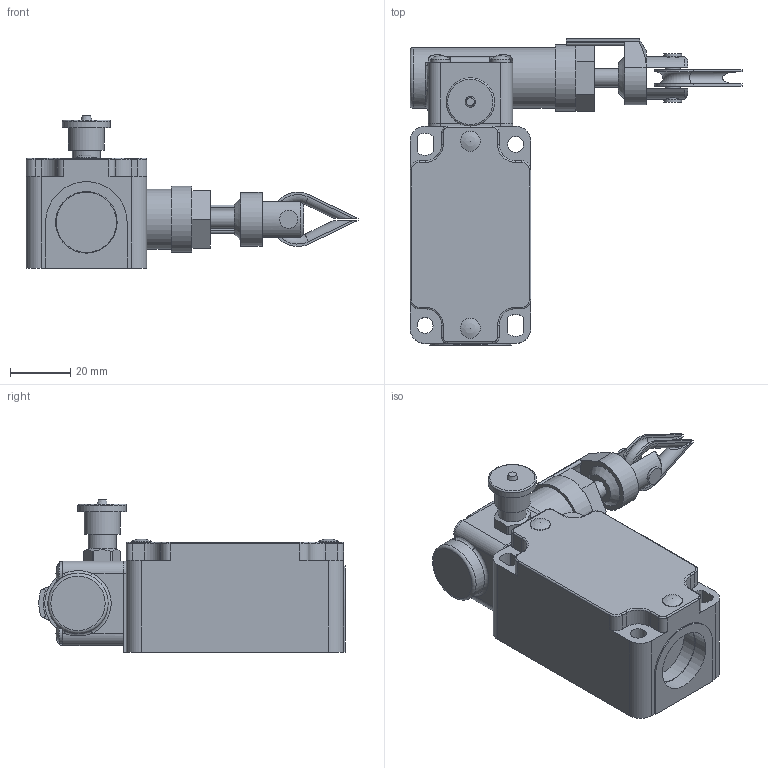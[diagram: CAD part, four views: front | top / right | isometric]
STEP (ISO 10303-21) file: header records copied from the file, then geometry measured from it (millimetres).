
FILE_DESCRIPTION((''),'2;1');
FILE_NAME('M:\INVENTORjob\Konstruktion\Sicherheitsschalter\ipt iam Modelle\April 2012\ERS200-M1C1-M20-HAR\ERS200-M1C1-M20-HAR.stp','2012-04-13T12:56:22',('sloesch'),(''),'Autodesk Inventor 2009','Autodesk Inventor 2009','');
FILE_SCHEMA(('AUTOMOTIVE_DESIGN { 1 0 10303 214 1 1 1 1 }'));
Length unit declared in the file: millimetre
Products named in the file (7): ERS200-M1C1-M20-HAR_; ZF_STEP_VF_T84_A10; T78_3; T78; T78_1; T78_2; 8_2
Assembly tree (6 placements, depth 3):
  ERS200-M1C1-M20-HAR_
    ZF_STEP_VF_T84_A10
      T78_3
      T78
      T78_1
      T78_2
    8_2
Bounding box: 110 x 101.45 x 50.5 mm (x, y, z)
Volume: 130563.1 mm3; surface area: 29514.2 mm2
Topology: 5 solids, 5 shells, 249 faces, 607 edges, 388 vertices
Faces by surface type: plane 123, cylinder 93, torus 19, cone 6, sphere 6, bspline 2
Full cylindrical faces by diameter (mm): 5 x3, 5.3 x2, 6 x4, 6.6 x6, 7 x3, 9.3 x1, 11.9 x1, 16 x1, 20 x2, 20.4 x1, 22 x1
Entity records: 7638 total; most frequent: CARTESIAN_POINT 1694, DIRECTION 1272, ORIENTED_EDGE 1114, EDGE_CURVE 557, AXIS2_PLACEMENT_3D 487, VERTEX_POINT 375, EDGE_LOOP 316, VECTOR 298
